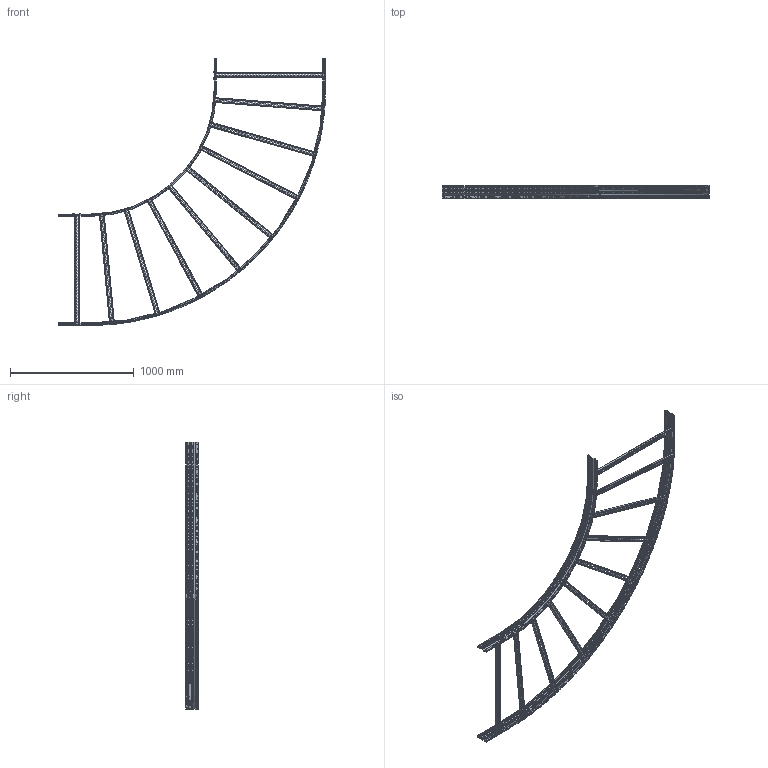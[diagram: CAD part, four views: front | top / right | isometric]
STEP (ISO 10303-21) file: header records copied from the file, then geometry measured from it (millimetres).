
FILE_DESCRIPTION (( 'STEP AP203' ), '1' );
FILE_NAME ('ULD119 (R1000).STEP', '2015-03-30T13:22:29', ( '' ), ( '' ), 'SwSTEP 2.0', 'SolidWorks 2014', '' );
FILE_SCHEMA (( 'CONFIG_CONTROL_DESIGN' ));
Length unit declared in the file: millimetre
Products named in the file (4): 呧翲歑鍙 碴麔謥臇鴇 100 R1000; 呧翲歑鍙  縺賾緱鴇 90 H=100 2擤 R1000_900; Traversino 39x19x1.5_1_900:(1,5); ULD119 (R1000)
Assembly tree (12 placements, depth 2):
  ULD119 (R1000)
    呧翲歑鍙 碴麔謥臇鴇 100 R1000
    呧翲歑鍙  縺賾緱鴇 90 H=100 2擤 R1000_900
    Traversino 39x19x1.5_1_900:(1,5)  x10
Bounding box: 2158.7 x 102.99 x 2158.7 mm (x, y, z)
Volume: 2934677.1 mm3; surface area: 3487704.7 mm2
Topology: 12 solids, 12 shells, 9276 faces, 26531 edges, 17367 vertices
Faces by surface type: plane 4440, cylinder 4288, bspline 484, torus 56, cone 8
Entity records: 243900 total; most frequent: CARTESIAN_POINT 101849, ORIENTED_EDGE 32686, DIRECTION 24672, EDGE_CURVE 16343, VERTEX_POINT 10815, AXIS2_PLACEMENT_3D 8724, LINE 7224, VECTOR 7224
